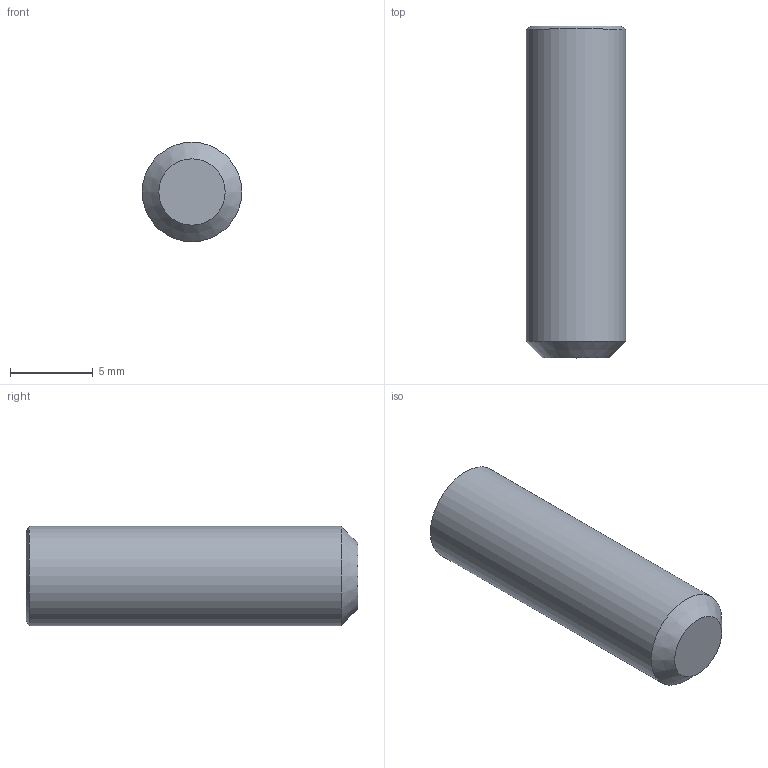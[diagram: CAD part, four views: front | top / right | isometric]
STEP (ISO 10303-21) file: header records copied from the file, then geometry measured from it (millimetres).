
FILE_DESCRIPTION(/* description */ (''),/* implementation_level */ '2;1');
FILE_NAME(/* name */ 'C:\Users\D\Documents\Inventor\各種小物\JIS\止めねじ\平先\M6\M6x20.stp',/* time_stamp */ '2022-06-23T14:26:09+09:00',/* author */ ('D'),/* organization */ (''),/* preprocessor_version */ 'ST-DEVELOPER v18',/* originating_system */ 'Autodesk Inventor 2020',/* authorisation */ '');
FILE_SCHEMA (('CONFIG_CONTROL_DESIGN','AUTOMOTIVE_DESIGN { 1 0 10303 214 3 1 1 }'));
Length unit declared in the file: millimetre
Products named in the file (1): M1.6x2
Bounding box: 6 x 20 x 6 mm (x, y, z)
Volume: 526.2 mm3; surface area: 457.2 mm2
Topology: 1 solids, 1 shells, 12 faces, 28 edges, 18 vertices
Faces by surface type: plane 8, cone 3, cylinder 1
Full cylindrical faces by diameter (mm): 6 x1
Entity records: 369 total; most frequent: CARTESIAN_POINT 72, ORIENTED_EDGE 54, DIRECTION 50, EDGE_CURVE 27, VERTEX_POINT 18, AXIS2_PLACEMENT_3D 17, LINE 16, VECTOR 16
